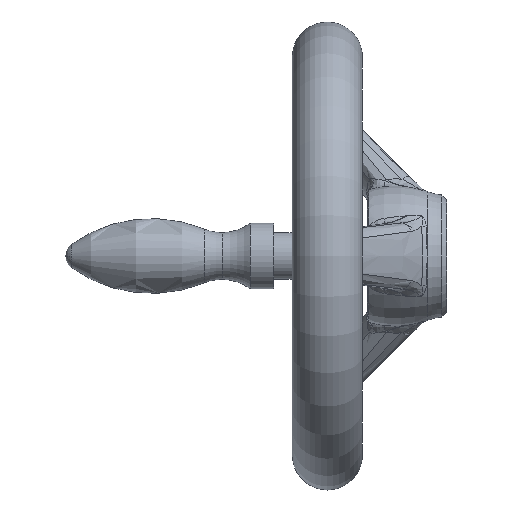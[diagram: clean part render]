
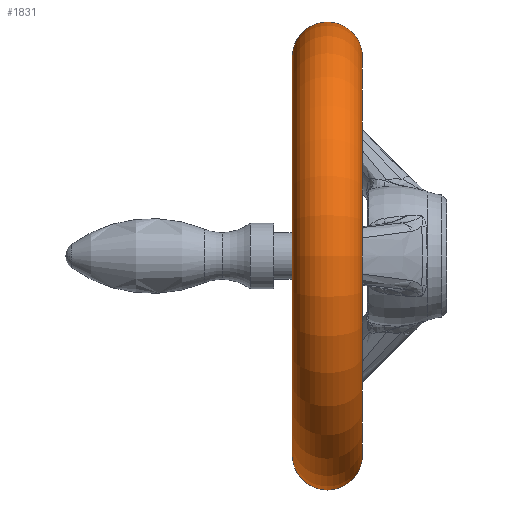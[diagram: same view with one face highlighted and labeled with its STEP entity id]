
A CAD part, left-side view. The second image highlights one B-rep face of the part: STEP entity #1831.
In plain terms, the highlighted toroidal (fillet/blend) face has major radius 42.5 mm and minor radius 7.5 mm.
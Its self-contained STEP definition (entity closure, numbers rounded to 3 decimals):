
#1828 = ORIENTED_EDGE ( 'NONE', *, *, #21471, .F. ) ;
#1829 = ORIENTED_EDGE ( 'NONE', *, *, #20159, .F. ) ;
#1830 = ORIENTED_EDGE ( 'NONE', *, *, #5490, .T. ) ;
#1831 = ADVANCED_FACE ( 'NONE', ( #5153 ), #5197, .T. ) ;
#1832 = ORIENTED_EDGE ( 'NONE', *, *, #21064, .T. ) ;
#1844 = EDGE_LOOP ( 'NONE', ( #1828, #1830, #1832, #1829 ) ) ;
#3052 = VERTEX_POINT ( 'NONE', #5545 ) ;
#5153 = FACE_OUTER_BOUND ( 'NONE', #1844, .T. ) ;
#5171 = DIRECTION ( 'NONE',  ( 0., 0., -1. ) ) ;
#5172 = DIRECTION ( 'NONE',  ( 0., -1., 0. ) ) ;
#5173 = CARTESIAN_POINT ( 'NONE',  ( 0., 25.5, 0. ) ) ;
#5191 = AXIS2_PLACEMENT_3D ( 'NONE', #5173, #5172, #5171 ) ;
#5197 = TOROIDAL_SURFACE ( 'NONE', #5191, 42.5, 7.5 ) ;
#5490 = EDGE_CURVE ( 'NONE', #6760, #3052, #5732, .T. ) ;
#5545 = CARTESIAN_POINT ( 'NONE',  ( 0., 33., -42.5 ) ) ;
#5732 = CIRCLE ( 'NONE', #5801, 42.5 ) ;
#5798 = DIRECTION ( 'NONE',  ( 0., 0., -1. ) ) ;
#5799 = DIRECTION ( 'NONE',  ( 0., -1., 0. ) ) ;
#5800 = CARTESIAN_POINT ( 'NONE',  ( 0., 33., 0. ) ) ;
#5801 = AXIS2_PLACEMENT_3D ( 'NONE', #5800, #5799, #5798 ) ;
#5925 = CARTESIAN_POINT ( 'NONE',  ( 0., 33., 42.5 ) ) ;
#6760 = VERTEX_POINT ( 'NONE', #5925 ) ;
#17447 = CARTESIAN_POINT ( 'NONE',  ( 0., 18., 0. ) ) ;
#17453 = CARTESIAN_POINT ( 'NONE',  ( 0., 18., 42.5 ) ) ;
#17455 = CIRCLE ( 'NONE', #17502, 42.5 ) ;
#17479 = DIRECTION ( 'NONE',  ( 0., 0., -1. ) ) ;
#17480 = DIRECTION ( 'NONE',  ( 0., -1., 0. ) ) ;
#17502 = AXIS2_PLACEMENT_3D ( 'NONE', #17447, #17480, #17479 ) ;
#17507 = DIRECTION ( 'NONE',  ( 0., 0., -1. ) ) ;
#17508 = DIRECTION ( 'NONE',  ( 1., 0., 0. ) ) ;
#17516 = AXIS2_PLACEMENT_3D ( 'NONE', #17518, #17508, #17507 ) ;
#17518 = CARTESIAN_POINT ( 'NONE',  ( 0., 25.5, 42.5 ) ) ;
#17524 = DIRECTION ( 'NONE',  ( 0., 0., 1. ) ) ;
#17525 = DIRECTION ( 'NONE',  ( -1., 0., 0. ) ) ;
#17526 = CARTESIAN_POINT ( 'NONE',  ( 0., 25.5, -42.5 ) ) ;
#17527 = AXIS2_PLACEMENT_3D ( 'NONE', #17526, #17525, #17524 ) ;
#17528 = CIRCLE ( 'NONE', #17527, 7.5 ) ;
#17530 = CARTESIAN_POINT ( 'NONE',  ( 0., 18., -42.5 ) ) ;
#17531 = CIRCLE ( 'NONE', #17516, 7.5 ) ;
#20159 = EDGE_CURVE ( 'NONE', #20547, #21138, #17455, .T. ) ;
#20547 = VERTEX_POINT ( 'NONE', #17453 ) ;
#21064 = EDGE_CURVE ( 'NONE', #3052, #21138, #17528, .T. ) ;
#21138 = VERTEX_POINT ( 'NONE', #17530 ) ;
#21471 = EDGE_CURVE ( 'NONE', #6760, #20547, #17531, .T. ) ;
